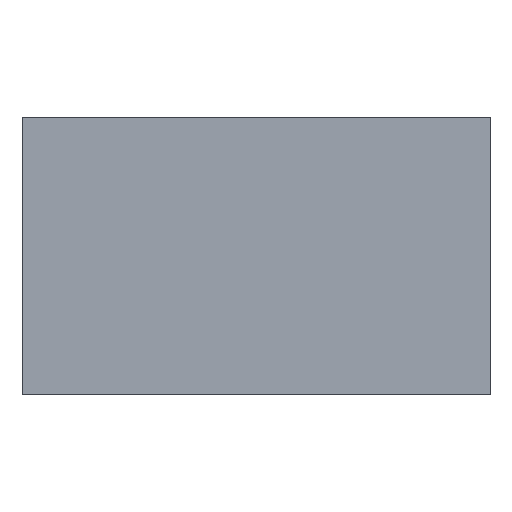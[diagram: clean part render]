
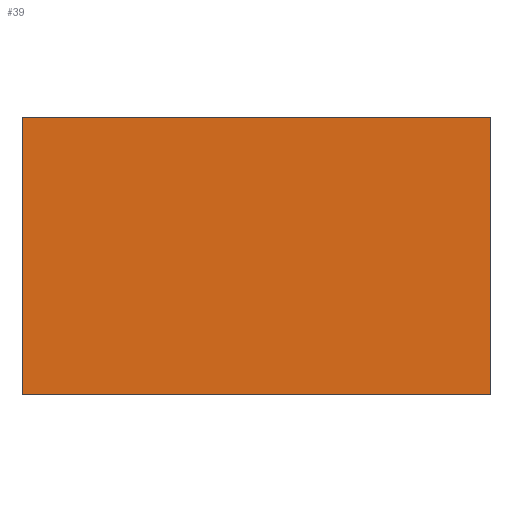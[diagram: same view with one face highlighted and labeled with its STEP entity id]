
A CAD part, left-side view. The second image highlights one B-rep face of the part: STEP entity #39.
In plain terms, the highlighted planar face has unit normal (-1, 0, 0).
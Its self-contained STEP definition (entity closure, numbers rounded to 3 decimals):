
#39=ADVANCED_FACE('',(#85),#62,.T.);
#62=PLANE('',#506);
#85=FACE_OUTER_BOUND('',#107,.T.);
#107=EDGE_LOOP('',(#160,#161,#162,#163));
#160=ORIENTED_EDGE('',*,*,#334,.F.);
#161=ORIENTED_EDGE('',*,*,#335,.F.);
#162=ORIENTED_EDGE('',*,*,#328,.T.);
#163=ORIENTED_EDGE('',*,*,#336,.T.);
#282=VERTEX_POINT('',#688);
#283=VERTEX_POINT('',#690);
#288=VERTEX_POINT('',#703);
#289=VERTEX_POINT('',#704);
#328=EDGE_CURVE('',#283,#282,#394,.T.);
#334=EDGE_CURVE('',#288,#289,#400,.T.);
#335=EDGE_CURVE('',#283,#288,#401,.T.);
#336=EDGE_CURVE('',#282,#289,#402,.T.);
#394=LINE('',#689,#460);
#400=LINE('',#702,#466);
#401=LINE('',#705,#467);
#402=LINE('',#706,#468);
#460=VECTOR('',#554,1.);
#466=VECTOR('',#564,1.);
#467=VECTOR('',#565,1.);
#468=VECTOR('',#566,1.);
#506=AXIS2_PLACEMENT_3D('',#707,#567,#568);
#554=DIRECTION('',(0.,1.,0.));
#564=DIRECTION('',(0.,1.,0.));
#565=DIRECTION('',(0.,0.,-1.));
#566=DIRECTION('',(0.,0.,-1.));
#567=DIRECTION('',(-1.,0.,0.));
#568=DIRECTION('',(0.,0.,1.));
#688=CARTESIAN_POINT('',(-60.,55.,65.));
#689=CARTESIAN_POINT('',(-60.,-55.,65.));
#690=CARTESIAN_POINT('',(-60.,-55.,65.));
#702=CARTESIAN_POINT('',(-60.,-55.,0.));
#703=CARTESIAN_POINT('',(-60.,-55.,0.));
#704=CARTESIAN_POINT('',(-60.,55.,0.));
#705=CARTESIAN_POINT('',(-60.,-55.,65.));
#706=CARTESIAN_POINT('',(-60.,55.,65.));
#707=CARTESIAN_POINT('',(-60.,-55.,65.));
